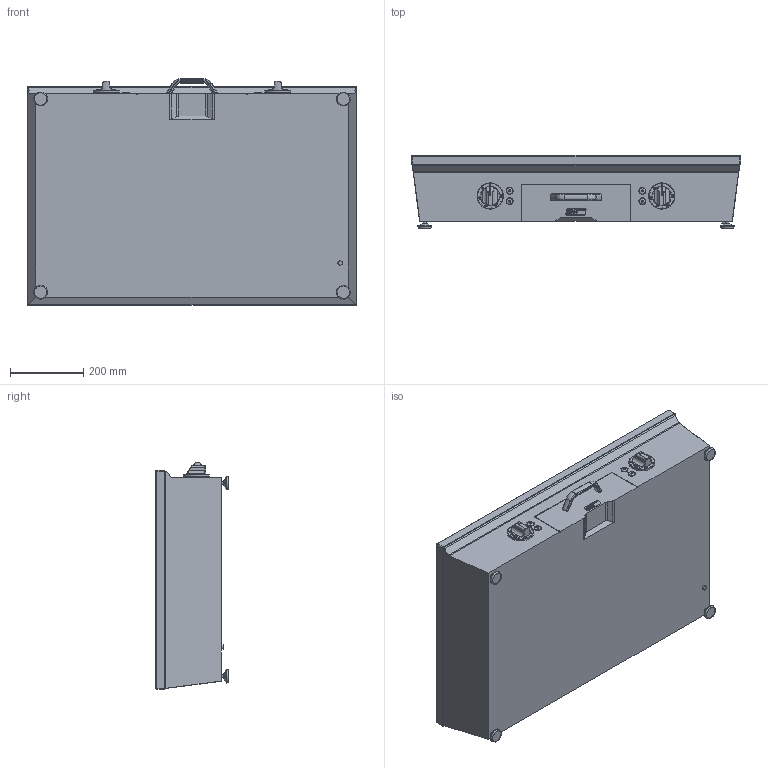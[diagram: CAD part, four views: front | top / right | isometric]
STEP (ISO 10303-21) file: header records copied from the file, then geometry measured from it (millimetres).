
FILE_DESCRIPTION (( 'STEP AP214' ), '1' );
FILE_NAME ('MS-G-90-RE.STEP', '2026-04-01T07:55:43', ( '' ), ( '' ), 'SwSTEP 2.0', 'SolidWorks 2023', '' );
FILE_SCHEMA (( 'AUTOMOTIVE_DESIGN' ));
Length unit declared in the file: millimetre
Products named in the file (1): MS-G-90-RE
Bounding box: 900 x 200 x 620.48 mm (x, y, z)
Volume: 72210796.2 mm3; surface area: 1795874.1 mm2
Topology: 9 solids, 12 shells, 1042 faces, 2636 edges, 1715 vertices
Faces by surface type: plane 548, bspline 290, cylinder 158, torus 26, cone 20
Full cylindrical faces by diameter (mm): 7.09 x4, 9.09 x4, 12 x1, 13 x2, 15 x2, 17 x4, 19 x4, 44.5 x2, 60 x2, 69.8 x2, 70 x2, 72 x2
Entity records: 35656 total; most frequent: CARTESIAN_POINT 13145, ORIENTED_EDGE 5108, DIRECTION 3634, EDGE_CURVE 2554, VERTEX_POINT 1684, LINE 1528, VECTOR 1528, EDGE_LOOP 1192
